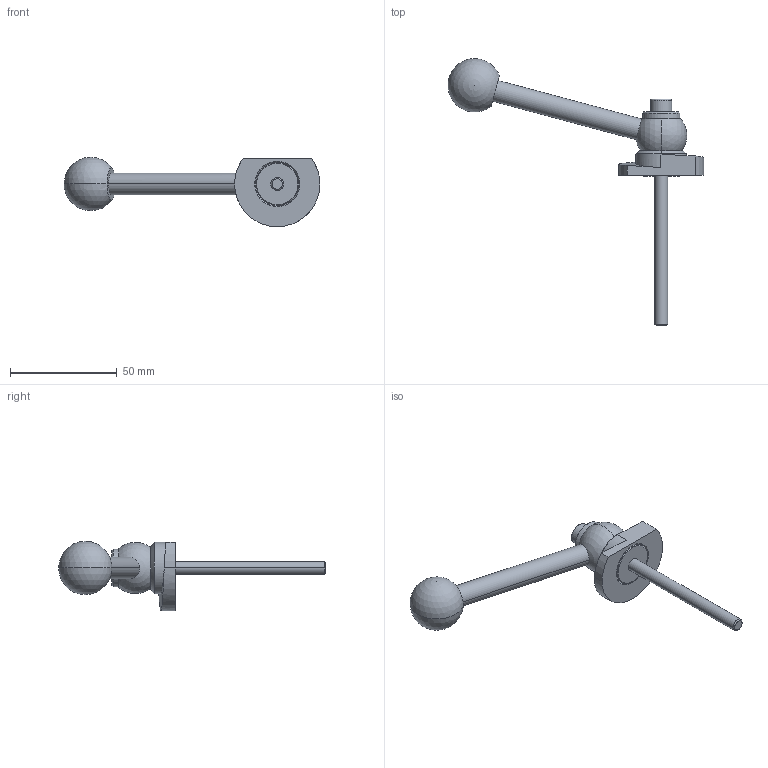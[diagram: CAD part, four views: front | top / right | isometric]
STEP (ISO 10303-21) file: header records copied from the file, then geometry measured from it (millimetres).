
FILE_DESCRIPTION (( 'STEP AP214' ), '1' );
FILE_NAME ('918.1-40-KVS-L-70.step', '2024-05-15T13:00:14', ( '' ), ( '' ), 'SwSTEP 2.0', 'SolidWorks 2022', '' );
FILE_SCHEMA (( 'AUTOMOTIVE_DESIGN' ));
Length unit declared in the file: millimetre
Products named in the file (1): 918.1-40-KVS-L-70
Bounding box: 119.95 x 124.99 x 32.5 mm (x, y, z)
Volume: 31729.4 mm3; surface area: 12155.5 mm2
Topology: 1 solids, 1 shells, 62 faces, 141 edges, 89 vertices
Faces by surface type: plane 20, cylinder 19, cone 14, sphere 4, bspline 3, torus 2
Entity records: 2003 total; most frequent: CARTESIAN_POINT 614, DIRECTION 304, ORIENTED_EDGE 262, EDGE_CURVE 131, AXIS2_PLACEMENT_3D 125, VERTEX_POINT 83, EDGE_LOOP 74, CIRCLE 65
